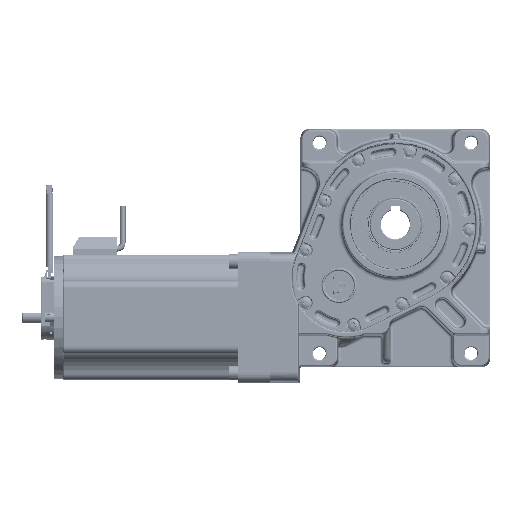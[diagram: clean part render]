
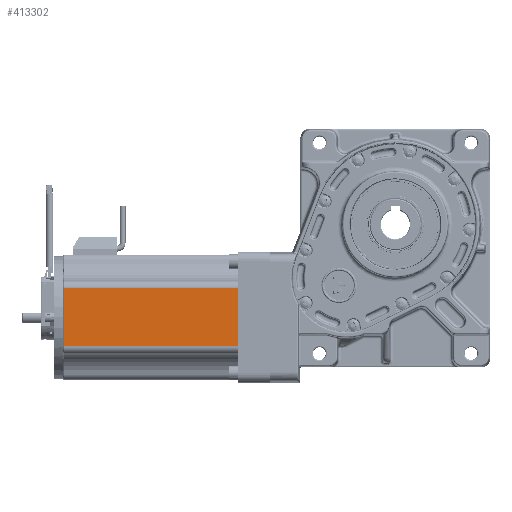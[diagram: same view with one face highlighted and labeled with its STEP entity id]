
A CAD part, top view. The second image highlights one B-rep face of the part: STEP entity #413302.
In plain terms, the highlighted planar face has unit normal (0, 0, 1).
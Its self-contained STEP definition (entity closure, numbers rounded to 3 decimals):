
#17402 = VECTOR ( 'NONE', #270869, 1000. ) ;
#23094 = EDGE_CURVE ( 'NONE', #274640, #299762, #343843, .T. ) ;
#23357 = CARTESIAN_POINT ( 'NONE',  ( -174.219, -8.053, 80.402 ) ) ;
#31561 = CARTESIAN_POINT ( 'NONE',  ( -186.719, -71.091, 80.402 ) ) ;
#37512 = DIRECTION ( 'NONE',  ( 0., 0., -1. ) ) ;
#47849 = EDGE_CURVE ( 'NONE', #299762, #108069, #336328, .T. ) ;
#51608 = VECTOR ( 'NONE', #400949, 1000. ) ;
#54678 = PLANE ( 'NONE',  #339158 ) ;
#65314 = DIRECTION ( 'NONE',  ( 0., -1., 0. ) ) ;
#102611 = VERTEX_POINT ( 'NONE', #275055 ) ;
#106813 = ORIENTED_EDGE ( 'NONE', *, *, #388031, .F. ) ;
#108069 = VERTEX_POINT ( 'NONE', #157654 ) ;
#117552 = CARTESIAN_POINT ( 'NONE',  ( -305.719, -48.129, 80.402 ) ) ;
#141882 = CARTESIAN_POINT ( 'NONE',  ( -305.719, -8.053, 80.402 ) ) ;
#157654 = CARTESIAN_POINT ( 'NONE',  ( -186.719, -48.129, 80.402 ) ) ;
#164262 = DIRECTION ( 'NONE',  ( 0., 1., 0. ) ) ;
#188315 = ORIENTED_EDGE ( 'NONE', *, *, #47849, .T. ) ;
#191484 = VECTOR ( 'NONE', #276970, 1000. ) ;
#221716 = LINE ( 'NONE', #31561, #362332 ) ;
#253391 = ORIENTED_EDGE ( 'NONE', *, *, #23094, .T. ) ;
#265816 = ORIENTED_EDGE ( 'NONE', *, *, #393877, .T. ) ;
#266683 = CARTESIAN_POINT ( 'NONE',  ( -174.219, -48.129, 80.402 ) ) ;
#270869 = DIRECTION ( 'NONE',  ( 1., 0., 0. ) ) ;
#274640 = VERTEX_POINT ( 'NONE', #141882 ) ;
#275055 = CARTESIAN_POINT ( 'NONE',  ( -186.719, -8.053, 80.402 ) ) ;
#276970 = DIRECTION ( 'NONE',  ( -1., 0., 0. ) ) ;
#287016 = CARTESIAN_POINT ( 'NONE',  ( -174.219, -71.091, 80.402 ) ) ;
#299762 = VERTEX_POINT ( 'NONE', #368532 ) ;
#336328 = LINE ( 'NONE', #266683, #17402 ) ;
#339158 = AXIS2_PLACEMENT_3D ( 'NONE', #287016, #37512, #164262 ) ;
#342126 = FACE_OUTER_BOUND ( 'NONE', #391529, .T. ) ;
#343843 = LINE ( 'NONE', #117552, #51608 ) ;
#362332 = VECTOR ( 'NONE', #65314, 1000. ) ;
#368532 = CARTESIAN_POINT ( 'NONE',  ( -305.719, -48.129, 80.402 ) ) ;
#372064 = LINE ( 'NONE', #23357, #191484 ) ;
#388031 = EDGE_CURVE ( 'NONE', #102611, #108069, #221716, .T. ) ;
#391529 = EDGE_LOOP ( 'NONE', ( #188315, #106813, #265816, #253391 ) ) ;
#393877 = EDGE_CURVE ( 'NONE', #102611, #274640, #372064, .T. ) ;
#400949 = DIRECTION ( 'NONE',  ( 0., -1., 0. ) ) ;
#413302 = ADVANCED_FACE ( 'NONE', ( #342126 ), #54678, .F. ) ;
